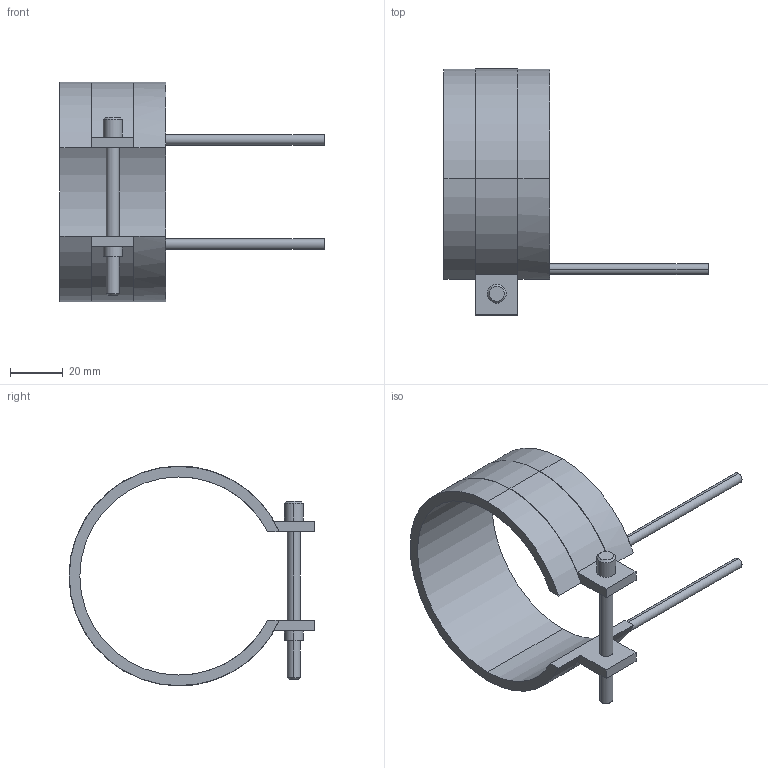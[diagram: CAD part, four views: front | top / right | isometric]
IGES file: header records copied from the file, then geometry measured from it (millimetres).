
Start section: START RECORD GO HERE.
Global section: file name: 14075040.igs; native system: DASSAULT SYSTEMES CATIA V5 R20 - www.3ds.com; preprocessor: CATIA Version 5 Release 20 ; author: Utente; organization: NB04-ASUS; date: 20210403.104356; units: millimetre
Bounding box: 100 x 93.1 x 83.2 mm (x, y, z)
Surface area: 22806.7 mm2 (no closed solid volume)
Topology: 0 solids, 0 shells, 45 faces, 232 edges, 232 vertices
Faces by surface type: revolution 28, plane 17
